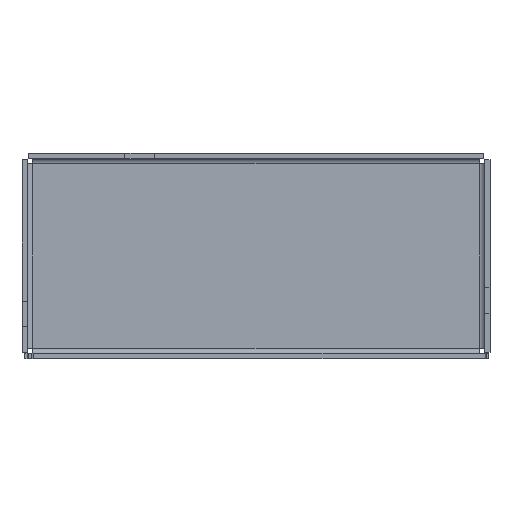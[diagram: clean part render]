
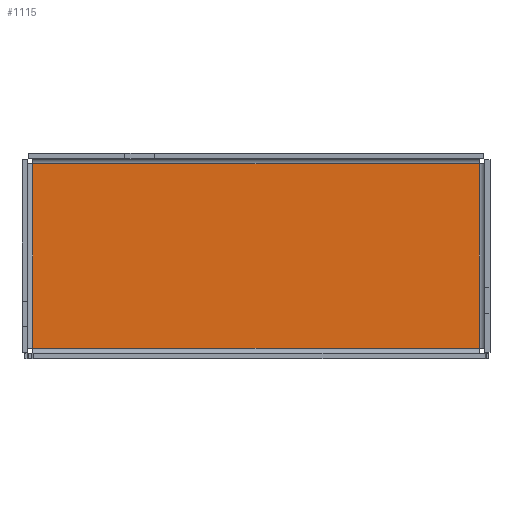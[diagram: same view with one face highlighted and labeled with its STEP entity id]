
A CAD part, front view. The second image highlights one B-rep face of the part: STEP entity #1115.
In plain terms, the highlighted planar face has unit normal (0, -1, 0).
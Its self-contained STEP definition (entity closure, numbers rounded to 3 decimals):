
#101=FACE_OUTER_BOUND('',#165,.T.);
#165=EDGE_LOOP('',(#989,#990,#991,#992));
#280=LINE('',#1750,#418);
#288=LINE('',#1774,#426);
#296=LINE('',#1796,#434);
#304=LINE('',#1819,#442);
#418=VECTOR('',#1412,10.);
#426=VECTOR('',#1444,10.);
#434=VECTOR('',#1472,10.);
#442=VECTOR('',#1506,10.);
#523=VERTEX_POINT('',#1739);
#524=VERTEX_POINT('',#1743);
#528=VERTEX_POINT('',#1766);
#532=VERTEX_POINT('',#1789);
#652=EDGE_CURVE('',#524,#523,#280,.T.);
#664=EDGE_CURVE('',#523,#528,#288,.T.);
#676=EDGE_CURVE('',#532,#524,#296,.T.);
#688=EDGE_CURVE('',#528,#532,#304,.T.);
#989=ORIENTED_EDGE('',*,*,#652,.T.);
#990=ORIENTED_EDGE('',*,*,#664,.T.);
#991=ORIENTED_EDGE('',*,*,#688,.T.);
#992=ORIENTED_EDGE('',*,*,#676,.T.);
#1051=PLANE('',#1209);
#1115=ADVANCED_FACE('',(#101),#1051,.T.);
#1209=AXIS2_PLACEMENT_3D('',#1820,#1507,#1508);
#1412=DIRECTION('',(1.,0.,0.));
#1444=DIRECTION('',(0.,0.,1.));
#1472=DIRECTION('',(0.,0.,-1.));
#1506=DIRECTION('',(-1.,0.,0.));
#1507=DIRECTION('center_axis',(0.,-1.,0.));
#1508=DIRECTION('ref_axis',(1.,0.,0.));
#1739=CARTESIAN_POINT('',(34.554,1.3,-14.61));
#1743=CARTESIAN_POINT('',(0.6,1.3,-14.61));
#1750=CARTESIAN_POINT('',(9.089,1.3,-14.61));
#1766=CARTESIAN_POINT('',(34.554,1.3,-0.6));
#1774=CARTESIAN_POINT('',(34.554,1.3,-11.108));
#1789=CARTESIAN_POINT('',(0.6,1.3,-0.6));
#1796=CARTESIAN_POINT('',(0.6,1.3,-4.103));
#1819=CARTESIAN_POINT('',(26.066,1.3,-0.6));
#1820=CARTESIAN_POINT('Origin',(17.577,1.3,-7.605));
